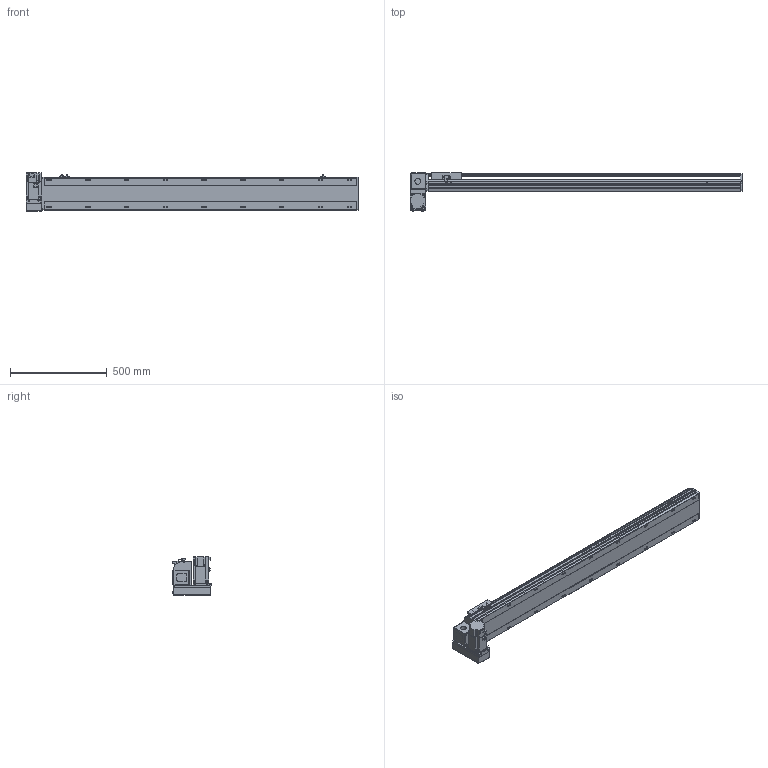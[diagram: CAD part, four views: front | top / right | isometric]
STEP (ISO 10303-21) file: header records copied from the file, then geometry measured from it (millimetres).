
FILE_DESCRIPTION( ( 'STEP AP214' ), '1' );
FILE_NAME( 'x:/temp/worker_3/temp/exporttempdir_5412_22_hIi2C/format_0/PBS170-P40-S1350-LD-T75-C1-N(0).stp', '2022-06-07T07:53:29', ( 'License CC BY-ND 4.0' ), ( 'CADENAS' ), ' ', 'PARTsolutions', ' ' );
FILE_SCHEMA( ( 'AUTOMOTIVE_DESIGN { 1 0 10303 214 1 1 1 1 }' ) );
Length unit declared in the file: millimetre
Products named in the file (7): PBS170-P40-S1350-LD-T75-C1-N(0); _PBS170-S1350()_body; _PBS170T-LD_motors; _T75-p1; _PBS170_sliser; _PBS170_plant; _PBS170_sensor
Assembly tree (8 placements, depth 2):
  PBS170-P40-S1350-LD-T75-C1-N(0)
    _PBS170-S1350()_body
    _PBS170T-LD_motors
    _T75-p1
    _PBS170_sliser
    _PBS170_plant
    _PBS170_sensor  x3
Bounding box: 1713 x 201 x 197.3 mm (x, y, z)
Volume: 13484859.6 mm3; surface area: 1740827.6 mm2
Topology: 8 solids, 8 shells, 1098 faces, 2915 edges, 1900 vertices
Faces by surface type: plane 693, cylinder 347, cone 48, sphere 8, torus 2
Full cylindrical faces by diameter (mm): 3.242 x4, 4 x2, 4.4 x4, 4.5 x6, 4.917 x4, 6 x9, 6.647 x26, 7 x2, 7.5 x4, 8 x8, 8.5 x18, 10 x4, 10.5 x18, 11 x2, 30 x2, 40 x1, 70 x1
Entity records: 40382 total; most frequent: CARTESIAN_POINT 6389, DIRECTION 5370, ORIENTED_EDGE 5088, EDGE_CURVE 2544, AXIS2_PLACEMENT_3D 1867, VERTEX_POINT 1754, LINE 1636, VECTOR 1636
